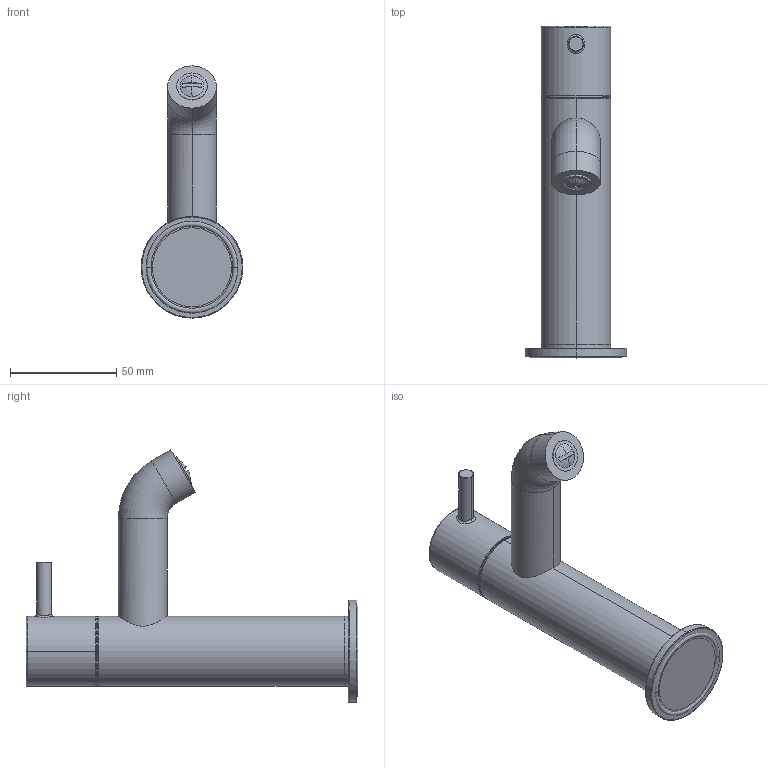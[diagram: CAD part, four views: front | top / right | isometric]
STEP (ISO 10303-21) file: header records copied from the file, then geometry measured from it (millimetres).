
FILE_DESCRIPTION((''),'2;1');
FILE_NAME('48860--00_SUB01_SW0001','2026-09-09T11:07:55',('clra1'),(''),'CREO PARAMETRIC BY PTC INC, 2022244','CREO PARAMETRIC BY PTC INC, 2022244','');
FILE_SCHEMA(('CONFIG_CONTROL_DESIGN'));
Length unit declared in the file: millimetre
Products named in the file (1): 48860--00_SUB01_SW0001
Bounding box: 48 x 156.5 x 118.96 mm (x, y, z)
Surface area: 29416.2 mm2 (no closed solid volume)
Topology: 0 solids, 11 shells, 50 faces, 111 edges, 68 vertices
Faces by surface type: torus 18, cylinder 18, plane 10, bspline 2, sphere 2
Entity records: 1656 total; most frequent: CARTESIAN_POINT 491, DIRECTION 281, ORIENTED_EDGE 192, AXIS2_PLACEMENT_3D 130, EDGE_CURVE 111, CIRCLE 82, VERTEX_POINT 68, EDGE_LOOP 50
